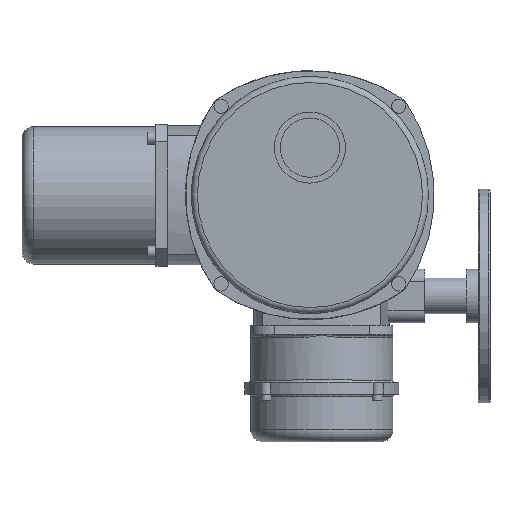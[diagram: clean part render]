
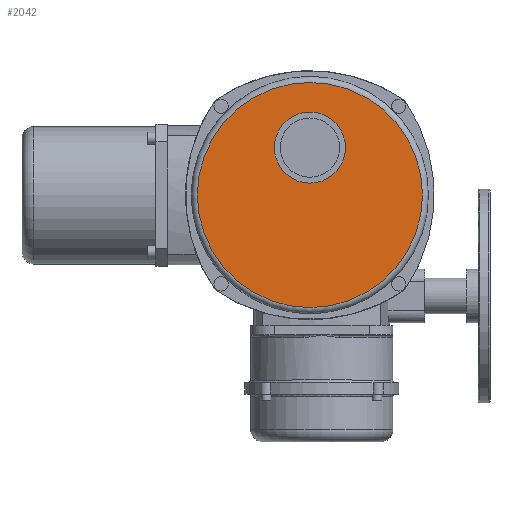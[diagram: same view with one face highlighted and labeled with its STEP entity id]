
A CAD part, top view. The second image highlights one B-rep face of the part: STEP entity #2042.
In plain terms, the highlighted planar face has unit normal (0, 0, 1).
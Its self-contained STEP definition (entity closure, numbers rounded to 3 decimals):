
#2042=ADVANCED_FACE('',(#4686,#4688),#4690,.T.);
#4686=FACE_BOUND('',#4687,.T.);
#4687=EDGE_LOOP('',(#5938));
#4688=FACE_BOUND('',#4689,.T.);
#4689=EDGE_LOOP('',(#5939));
#4690=PLANE('',#4691);
#4691=AXIS2_PLACEMENT_3D('',#4692,#4693,#4694);
#4692=CARTESIAN_POINT('',(0.,0.,70.));
#4693=DIRECTION('',(0.,0.,1.));
#4694=DIRECTION('',(1.,0.,0.));
#5938=ORIENTED_EDGE('',*,*,#6522,.T.);
#5939=ORIENTED_EDGE('',*,*,#6585,.F.);
#6522=EDGE_CURVE('',#7362,#7362,#7363,.T.);
#6585=EDGE_CURVE('',#7464,#7464,#7465,.T.);
#7362=VERTEX_POINT('',#10474);
#7363=CIRCLE('',#10475,95.);
#7464=VERTEX_POINT('',#10735);
#7465=CIRCLE('',#10736,30.);
#10474=CARTESIAN_POINT('',(95.,0.,70.));
#10475=AXIS2_PLACEMENT_3D('',#10476,#10477,#10478);
#10476=CARTESIAN_POINT('',(0.,0.,70.));
#10477=DIRECTION('',(0.,0.,1.));
#10478=DIRECTION('',(1.,0.,0.));
#10735=CARTESIAN_POINT('',(30.,40.,70.));
#10736=AXIS2_PLACEMENT_3D('',#10737,#10738,#10739);
#10737=CARTESIAN_POINT('',(0.,40.,70.));
#10738=DIRECTION('',(0.,0.,1.));
#10739=DIRECTION('',(1.,0.,0.));
